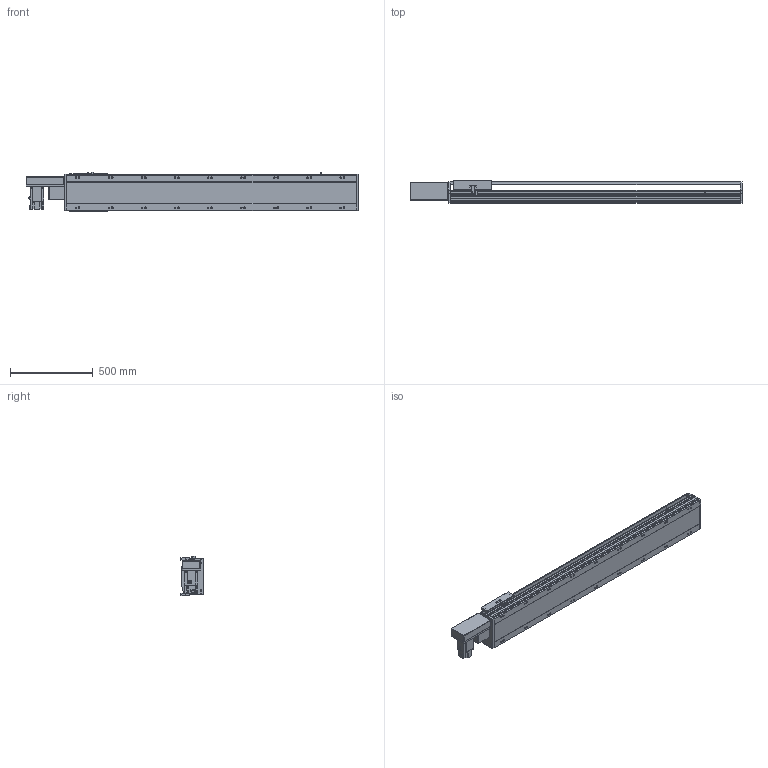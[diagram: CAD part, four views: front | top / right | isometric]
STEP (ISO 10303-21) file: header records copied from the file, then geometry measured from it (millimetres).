
FILE_DESCRIPTION(/* description */ ('STEP AP214'),/* implementation_level */ '2;1');
FILE_NAME(/* name */ 'PBS220-P40-S1400-R-T75-C1-N(0)',/* time_stamp */ '2022-06-11T10:01:23+02:00',/* author */ ('License CC BY-ND 4.0'),/* organization */ ('CADENAS'),/* preprocessor_version */ 'ST-DEVELOPER v18.102',/* originating_system */ 'PARTsolutions',/* authorisation */ ' ');
FILE_SCHEMA (('AUTOMOTIVE_DESIGN {1 0 10303 214 3 1 1}'));
Length unit declared in the file: millimetre
Products named in the file (7): PBS220-P40-S1400-R-T75-C1-N(0); PBS220_sensor; PBS220_plant; PBS220_sliser; T75-p1; PBS220T-R_motors; PBS220-S1400()_body
Assembly tree (8 placements, depth 2):
  PBS220-P40-S1400-R-T75-C1-N(0)
    PBS220_sensor  x3
    PBS220_plant
    PBS220_sliser
    T75-p1
    PBS220T-R_motors
    PBS220-S1400()_body
Bounding box: 2006 x 134 x 238.5 mm (x, y, z)
Volume: 26849079.1 mm3; surface area: 2557229.6 mm2
Topology: 8 solids, 8 shells, 926 faces, 2424 edges, 1576 vertices
Faces by surface type: plane 602, cylinder 282, cone 42
Full cylindrical faces by diameter (mm): 2.013 x4, 4.5 x14, 4.917 x4, 6 x7, 6.647 x8, 8 x10, 8.376 x18, 8.5 x18, 10 x6, 14 x18, 38 x2, 40 x1, 70 x1
Entity records: 25941 total; most frequent: CARTESIAN_POINT 4558, DIRECTION 4509, ORIENTED_EDGE 4142, EDGE_CURVE 2071, AXIS2_PLACEMENT_3D 1581, VERTEX_POINT 1432, LINE 1347, VECTOR 1347
